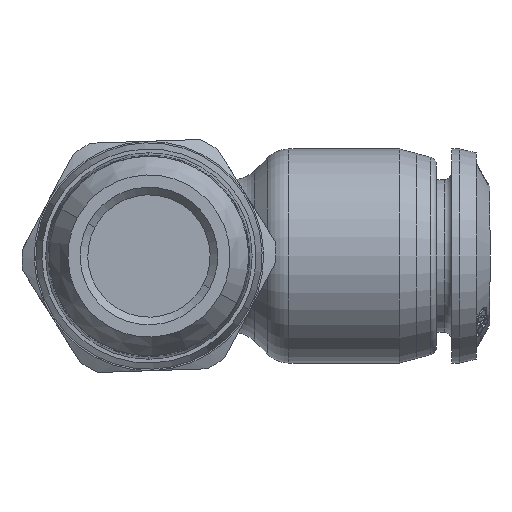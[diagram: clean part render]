
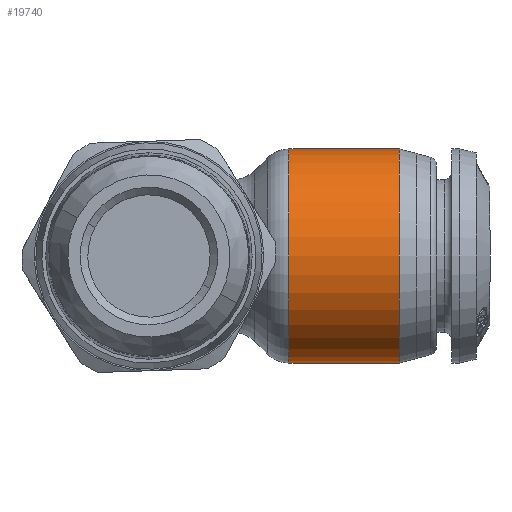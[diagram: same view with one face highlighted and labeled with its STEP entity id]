
A CAD part, left-side view. The second image highlights one B-rep face of the part: STEP entity #19740.
In plain terms, the highlighted cylindrical face has radius 7 mm (diameter 14 mm), a partial arc.
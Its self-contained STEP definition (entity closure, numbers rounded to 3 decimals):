
#4257 = VERTEX_POINT ( 'NONE', #13649 ) ;
#4277 = VERTEX_POINT ( 'NONE', #13669 ) ;
#4283 = VERTEX_POINT ( 'NONE', #13675 ) ;
#4291 = VERTEX_POINT ( 'NONE', #13683 ) ;
#4878 = LINE ( 'NONE', #28388, #4883 ) ;
#4882 = LINE ( 'NONE', #28397, #4885 ) ;
#4883 = VECTOR ( 'NONE', #28378, 1000. ) ;
#4885 = VECTOR ( 'NONE', #28400, 1000. ) ;
#11201 = CARTESIAN_POINT ( 'NONE',  ( 0., -16.38, 0. ) ) ;
#11202 = DIRECTION ( 'NONE',  ( 0., 1., 0. ) ) ;
#11203 = DIRECTION ( 'NONE',  ( 0., 0., 1. ) ) ;
#11933 = ORIENTED_EDGE ( 'NONE', *, *, #21042, .F. ) ;
#11935 = ORIENTED_EDGE ( 'NONE', *, *, #18498, .T. ) ;
#11937 = ORIENTED_EDGE ( 'NONE', *, *, #21043, .T. ) ;
#11938 = ORIENTED_EDGE ( 'NONE', *, *, #14097, .F. ) ;
#13649 = CARTESIAN_POINT ( 'NONE',  ( 0., -16.38, -7. ) ) ;
#13669 = CARTESIAN_POINT ( 'NONE',  ( 0., -9.157, -7. ) ) ;
#13675 = CARTESIAN_POINT ( 'NONE',  ( 0., -16.38, 7. ) ) ;
#13683 = CARTESIAN_POINT ( 'NONE',  ( 0., -9.157, 7. ) ) ;
#13931 = CARTESIAN_POINT ( 'NONE',  ( 0., -9.157, 0. ) ) ;
#13932 = DIRECTION ( 'NONE',  ( 0., 1., 0. ) ) ;
#13933 = DIRECTION ( 'NONE',  ( 0., 0., 1. ) ) ;
#14097 = EDGE_CURVE ( 'NONE', #4277, #4291, #21218, .T. ) ;
#18068 = FACE_OUTER_BOUND ( 'NONE', #27035, .T. ) ;
#18081 = CYLINDRICAL_SURFACE ( 'NONE', #22976, 7. ) ;
#18498 = EDGE_CURVE ( 'NONE', #4257, #4283, #21271, .T. ) ;
#19740 = ADVANCED_FACE ( 'NONE', ( #18068 ), #18081, .T. ) ;
#21042 = EDGE_CURVE ( 'NONE', #4257, #4277, #4878, .T. ) ;
#21043 = EDGE_CURVE ( 'NONE', #4283, #4291, #4882, .T. ) ;
#21218 = CIRCLE ( 'NONE', #21457, 7. ) ;
#21271 = CIRCLE ( 'NONE', #21481, 7. ) ;
#21457 = AXIS2_PLACEMENT_3D ( 'NONE', #13931, #13932, #13933 ) ;
#21481 = AXIS2_PLACEMENT_3D ( 'NONE', #11201, #11202, #11203 ) ;
#22976 = AXIS2_PLACEMENT_3D ( 'NONE', #24957, #24958, #24966 ) ;
#24957 = CARTESIAN_POINT ( 'NONE',  ( 0., 0., 0. ) ) ;
#24958 = DIRECTION ( 'NONE',  ( 0., 1., 0. ) ) ;
#24966 = DIRECTION ( 'NONE',  ( 0., 0., 1. ) ) ;
#27035 = EDGE_LOOP ( 'NONE', ( #11933, #11935, #11937, #11938 ) ) ;
#28378 = DIRECTION ( 'NONE',  ( 0., 1., 0. ) ) ;
#28388 = CARTESIAN_POINT ( 'NONE',  ( 0., 0., -7. ) ) ;
#28397 = CARTESIAN_POINT ( 'NONE',  ( 0., 0., 7. ) ) ;
#28400 = DIRECTION ( 'NONE',  ( 0., 1., 0. ) ) ;
